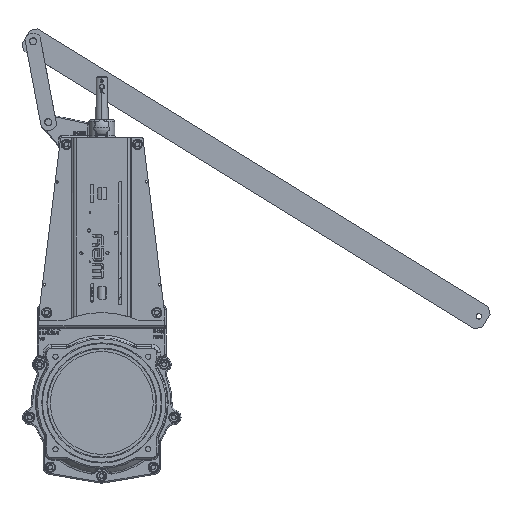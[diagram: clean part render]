
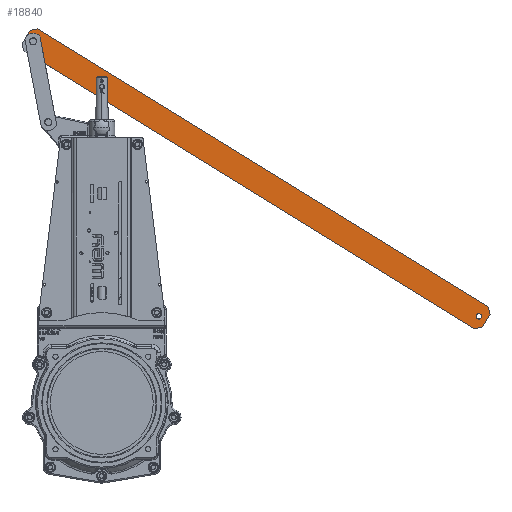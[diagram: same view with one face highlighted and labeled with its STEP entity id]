
A CAD part, top view. The second image highlights one B-rep face of the part: STEP entity #18840.
In plain terms, the highlighted planar face has unit normal (0, 0, 1).
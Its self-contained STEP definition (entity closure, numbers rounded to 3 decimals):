
#990 = DIRECTION ( 'NONE',  ( 0.851, -0.525, 0. ) ) ;
#3186 = CIRCLE ( 'NONE', #88947, 16. ) ;
#4563 = LINE ( 'NONE', #112014, #32873 ) ;
#5621 = VECTOR ( 'NONE', #38902, 1000. ) ;
#5843 = VERTEX_POINT ( 'NONE', #152659 ) ;
#6354 = EDGE_CURVE ( 'NONE', #107033, #32209, #3186, .T. ) ;
#6820 = CIRCLE ( 'NONE', #100943, 5.25 ) ;
#9806 = VERTEX_POINT ( 'NONE', #70791 ) ;
#9907 = FACE_BOUND ( 'NONE', #116401, .T. ) ;
#11524 = CARTESIAN_POINT ( 'NONE',  ( -88.23, 542.799, 4.75 ) ) ;
#12648 = ORIENTED_EDGE ( 'NONE', *, *, #69131, .T. ) ;
#14001 = CARTESIAN_POINT ( 'NONE',  ( -110.048, 658.874, 4.75 ) ) ;
#18291 = DIRECTION ( 'NONE',  ( 0., 0., 1. ) ) ;
#18840 = ADVANCED_FACE ( 'NONE', ( #105857, #9907, #41935 ), #48106, .T. ) ;
#19521 = ORIENTED_EDGE ( 'NONE', *, *, #48810, .F. ) ;
#19609 = VERTEX_POINT ( 'NONE', #95073 ) ;
#19657 = VERTEX_POINT ( 'NONE', #112406 ) ;
#20432 = DIRECTION ( 'NONE',  ( -0.851, 0.525, 0. ) ) ;
#22424 = ORIENTED_EDGE ( 'NONE', *, *, #29047, .T. ) ;
#24937 = CARTESIAN_POINT ( 'NONE',  ( 759.287, 152.084, 4.75 ) ) ;
#25434 = CARTESIAN_POINT ( 'NONE',  ( 724.885, 143.929, 4.75 ) ) ;
#25626 = CARTESIAN_POINT ( 'NONE',  ( 738.646, 147.191, 4.75 ) ) ;
#26833 = CARTESIAN_POINT ( 'NONE',  ( -139.302, 723.912, 4.75 ) ) ;
#27107 = VECTOR ( 'NONE', #71548, 1000. ) ;
#27138 = EDGE_CURVE ( 'NONE', #100258, #52995, #47106, .T. ) ;
#29047 = EDGE_CURVE ( 'NONE', #5843, #100765, #41710, .T. ) ;
#29259 = LINE ( 'NONE', #25434, #93185 ) ;
#30839 = CARTESIAN_POINT ( 'NONE',  ( 0., 614.5, 4.75 ) ) ;
#31460 = AXIS2_PLACEMENT_3D ( 'NONE', #24937, #109025, #37020 ) ;
#32209 = VERTEX_POINT ( 'NONE', #82705 ) ;
#32873 = VECTOR ( 'NONE', #98916, 1000. ) ;
#37020 = DIRECTION ( 'NONE',  ( 0.851, -0.525, 0. ) ) ;
#37248 = AXIS2_PLACEMENT_3D ( 'NONE', #60253, #144293, #72387 ) ;
#37565 = VERTEX_POINT ( 'NONE', #14001 ) ;
#37779 = ORIENTED_EDGE ( 'NONE', *, *, #122660, .F. ) ;
#38521 = CARTESIAN_POINT ( 'NONE',  ( -147.176, 711.145, 4.75 ) ) ;
#38902 = DIRECTION ( 'NONE',  ( -0.525, -0.851, 0. ) ) ;
#39635 = CARTESIAN_POINT ( 'NONE',  ( 732.902, 168.357, 4.75 ) ) ;
#40496 = CIRCLE ( 'NONE', #48629, 5.25 ) ;
#41710 = LINE ( 'NONE', #139237, #105645 ) ;
#41935 = FACE_OUTER_BOUND ( 'NONE', #116555, .T. ) ;
#42942 = DIRECTION ( 'NONE',  ( 0.851, -0.525, 0. ) ) ;
#45274 = VERTEX_POINT ( 'NONE', #38521 ) ;
#45290 = VERTEX_POINT ( 'NONE', #111509 ) ;
#45643 = EDGE_CURVE ( 'NONE', #37565, #107033, #59110, .T. ) ;
#47106 = LINE ( 'NONE', #69217, #79098 ) ;
#48106 = PLANE ( 'NONE',  #31460 ) ;
#48629 = AXIS2_PLACEMENT_3D ( 'NONE', #30839, #114863, #42942 ) ;
#48810 = EDGE_CURVE ( 'NONE', #32209, #45274, #93640, .T. ) ;
#51661 = AXIS2_PLACEMENT_3D ( 'NONE', #127448, #55517, #139576 ) ;
#51762 = DIRECTION ( 'NONE',  ( 0.851, -0.525, 0. ) ) ;
#52995 = VERTEX_POINT ( 'NONE', #79873 ) ;
#53417 = CARTESIAN_POINT ( 'NONE',  ( 738.646, 147.191, 4.75 ) ) ;
#54984 = ORIENTED_EDGE ( 'NONE', *, *, #143415, .T. ) ;
#55517 = DIRECTION ( 'NONE',  ( 0., 0., 1. ) ) ;
#56702 = LINE ( 'NONE', #53417, #148760 ) ;
#59110 = LINE ( 'NONE', #11524, #27107 ) ;
#60253 = CARTESIAN_POINT ( 'NONE',  ( -133.558, 702.746, 4.75 ) ) ;
#65522 = DIRECTION ( 'NONE',  ( 0.525, 0.851, 0. ) ) ;
#68901 = EDGE_CURVE ( 'NONE', #100765, #45274, #101621, .T. ) ;
#69131 = EDGE_CURVE ( 'NONE', #52995, #5843, #141207, .T. ) ;
#69217 = CARTESIAN_POINT ( 'NONE',  ( 754.394, 172.725, 4.75 ) ) ;
#69417 = VERTEX_POINT ( 'NONE', #25626 ) ;
#70791 = CARTESIAN_POINT ( 'NONE',  ( 724.885, 143.929, 4.75 ) ) ;
#71548 = DIRECTION ( 'NONE',  ( -0.185, 0.983, 0. ) ) ;
#72387 = DIRECTION ( 'NONE',  ( 0.185, -0.983, 0. ) ) ;
#73204 = DIRECTION ( 'NONE',  ( 0., 0., 1. ) ) ;
#74918 = EDGE_CURVE ( 'NONE', #19609, #19657, #6820, .T. ) ;
#77399 = EDGE_CURVE ( 'NONE', #37565, #9806, #29259, .T. ) ;
#79098 = VECTOR ( 'NONE', #81294, 1000. ) ;
#79873 = CARTESIAN_POINT ( 'NONE',  ( 751.132, 186.486, 4.75 ) ) ;
#81294 = DIRECTION ( 'NONE',  ( -0.231, 0.973, 0. ) ) ;
#82705 = CARTESIAN_POINT ( 'NONE',  ( -136.513, 718.471, 4.75 ) ) ;
#83630 = CARTESIAN_POINT ( 'NONE',  ( -119.844, 710.989, 4.75 ) ) ;
#83993 = ORIENTED_EDGE ( 'NONE', *, *, #111158, .T. ) ;
#85844 = DIRECTION ( 'NONE',  ( 0.851, -0.525, 0. ) ) ;
#88184 = CARTESIAN_POINT ( 'NONE',  ( 754.394, 172.725, 4.75 ) ) ;
#88947 = AXIS2_PLACEMENT_3D ( 'NONE', #90291, #18291, #102359 ) ;
#90291 = CARTESIAN_POINT ( 'NONE',  ( -133.558, 702.746, 4.75 ) ) ;
#90329 = ORIENTED_EDGE ( 'NONE', *, *, #77399, .T. ) ;
#93185 = VECTOR ( 'NONE', #85844, 1000. ) ;
#93640 = CIRCLE ( 'NONE', #37248, 16. ) ;
#94151 = ORIENTED_EDGE ( 'NONE', *, *, #146672, .F. ) ;
#95073 = CARTESIAN_POINT ( 'NONE',  ( 4.468, 611.744, 4.75 ) ) ;
#97244 = ORIENTED_EDGE ( 'NONE', *, *, #27138, .T. ) ;
#98916 = DIRECTION ( 'NONE',  ( 0.973, 0.231, 0. ) ) ;
#100258 = VERTEX_POINT ( 'NONE', #88184 ) ;
#100765 = VERTEX_POINT ( 'NONE', #138968 ) ;
#100943 = AXIS2_PLACEMENT_3D ( 'NONE', #145112, #73204, #990 ) ;
#101621 = LINE ( 'NONE', #26833, #5621 ) ;
#102359 = DIRECTION ( 'NONE',  ( 0.185, -0.983, 0. ) ) ;
#102436 = ORIENTED_EDGE ( 'NONE', *, *, #127960, .F. ) ;
#105645 = VECTOR ( 'NONE', #126554, 1000. ) ;
#105857 = FACE_BOUND ( 'NONE', #147426, .T. ) ;
#106320 = CARTESIAN_POINT ( 'NONE',  ( 737.37, 165.601, 4.75 ) ) ;
#107033 = VERTEX_POINT ( 'NONE', #83630 ) ;
#109025 = DIRECTION ( 'NONE',  ( 0., 0., 1. ) ) ;
#109204 = VECTOR ( 'NONE', #20432, 1000. ) ;
#111158 = EDGE_CURVE ( 'NONE', #9806, #69417, #4563, .T. ) ;
#111509 = CARTESIAN_POINT ( 'NONE',  ( 728.434, 171.113, 4.75 ) ) ;
#112014 = CARTESIAN_POINT ( 'NONE',  ( 738.646, 147.191, 4.75 ) ) ;
#112406 = CARTESIAN_POINT ( 'NONE',  ( -4.468, 617.256, 4.75 ) ) ;
#114863 = DIRECTION ( 'NONE',  ( 0., 0., 1. ) ) ;
#116401 = EDGE_LOOP ( 'NONE', ( #94151, #37779 ) ) ;
#116555 = EDGE_LOOP ( 'NONE', ( #153630, #140947, #90329, #83993, #54984, #97244, #12648, #22424, #146200, #19521 ) ) ;
#117498 = CIRCLE ( 'NONE', #51661, 5.25 ) ;
#122660 = EDGE_CURVE ( 'NONE', #147027, #45290, #117498, .T. ) ;
#123088 = ORIENTED_EDGE ( 'NONE', *, *, #74918, .F. ) ;
#123699 = DIRECTION ( 'NONE',  ( 0., 0., 1. ) ) ;
#126554 = DIRECTION ( 'NONE',  ( -0.973, -0.231, 0. ) ) ;
#126687 = AXIS2_PLACEMENT_3D ( 'NONE', #39635, #123699, #51762 ) ;
#127448 = CARTESIAN_POINT ( 'NONE',  ( 732.902, 168.357, 4.75 ) ) ;
#127960 = EDGE_CURVE ( 'NONE', #19657, #19609, #40496, .T. ) ;
#128174 = CARTESIAN_POINT ( 'NONE',  ( 751.132, 186.486, 4.75 ) ) ;
#138968 = CARTESIAN_POINT ( 'NONE',  ( -139.302, 723.912, 4.75 ) ) ;
#139237 = CARTESIAN_POINT ( 'NONE',  ( -125.541, 727.174, 4.75 ) ) ;
#139576 = DIRECTION ( 'NONE',  ( 0.851, -0.525, 0. ) ) ;
#140947 = ORIENTED_EDGE ( 'NONE', *, *, #45643, .F. ) ;
#141207 = LINE ( 'NONE', #128174, #109204 ) ;
#143415 = EDGE_CURVE ( 'NONE', #69417, #100258, #56702, .T. ) ;
#144293 = DIRECTION ( 'NONE',  ( 0., 0., 1. ) ) ;
#144942 = CIRCLE ( 'NONE', #126687, 5.25 ) ;
#145112 = CARTESIAN_POINT ( 'NONE',  ( 0., 614.5, 4.75 ) ) ;
#146200 = ORIENTED_EDGE ( 'NONE', *, *, #68901, .T. ) ;
#146672 = EDGE_CURVE ( 'NONE', #45290, #147027, #144942, .T. ) ;
#147027 = VERTEX_POINT ( 'NONE', #106320 ) ;
#147426 = EDGE_LOOP ( 'NONE', ( #102436, #123088 ) ) ;
#148760 = VECTOR ( 'NONE', #65522, 1000. ) ;
#152659 = CARTESIAN_POINT ( 'NONE',  ( -125.541, 727.174, 4.75 ) ) ;
#153630 = ORIENTED_EDGE ( 'NONE', *, *, #6354, .F. ) ;
